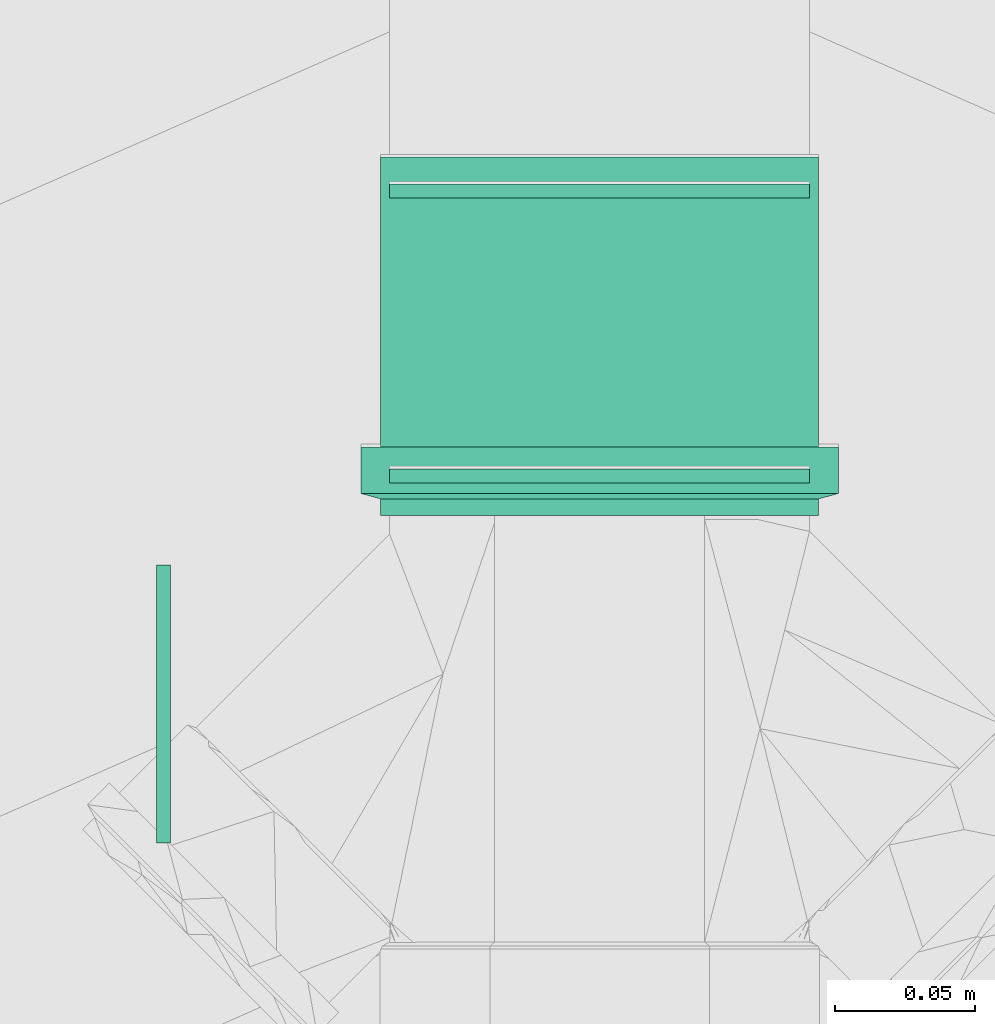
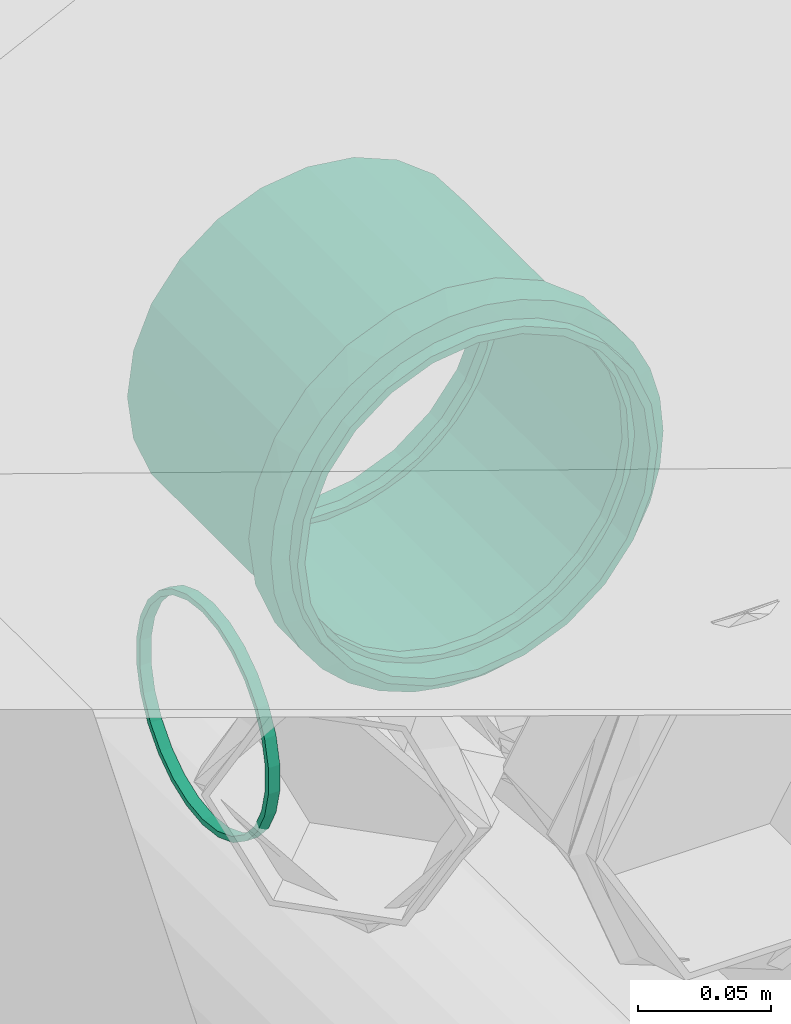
# One storey, part 115 of 166: 4 flow fittings.
"""IFC2X3 building model written with IfcOpenShell, lengths in metres."""

from ifc_helpers import new_model, entity, si_unit, converted_unit, direction, frame, frame_2d, origin, place, context, subcontext, project, spatial, hollow_circle, extrude, faceted_brep, source, transform, mapped, material, type_object, type_shapes, element, save


model = new_model("IFC2X3")

# Units and contexts
model_context = context("Model", 3, precision=1e-05, world=origin(), true_north=direction((6.123233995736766e-17, 1.0)))
body_context = subcontext(model_context, "Body", "Model", "MODEL_VIEW")
ifc_project = project(units=[si_unit("LENGTHUNIT", "METRE"), converted_unit("PLANEANGLEUNIT", "DEGREE", entity("IfcPlaneAngleMeasure", 0.017453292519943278), si_unit("PLANEANGLEUNIT", "RADIAN"), dimensions=[0, 0, 0, 0, 0, 0, 0]), si_unit("AREAUNIT", "SQUARE_METRE")], contexts=[model_context])

# Site, building, storey
site_placement = place(None, origin())
site = spatial("IfcSite", under=ifc_project, at=site_placement, Name="Default", CompositionType="ELEMENT")
building_placement = place(site_placement, origin())
building = spatial("IfcBuilding", under=site, at=building_placement, Name="CASA DE ACOLHIDA PARA IDOSOS", CompositionType="ELEMENT")
storey_placement = place(building_placement, frame((0.0, 0.0, -1.7499999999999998)))
storey = spatial("IfcBuildingStorey", under=building, at=storey_placement, Name="IMPLANTAÇÃO DRENAGEM", CompositionType="ELEMENT", Elevation=-1.7499999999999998)

# Flow fittings
ifc_material_1 = material(Name="PVC Bege Pérola")
pipe_fitting_type_1 = type_object("IfcPipeFittingType", Name="PLUV_Serie Reforcada_Luva Simples:Standard", PredefinedType="NOTDEFINED", material=ifc_material_1)
shared_shape_1 = source(origin(), body_context, "Body", "Brep", [
    faceted_brep([(0.02451000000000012, -0.039124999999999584, -0.06776648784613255), (0.02451000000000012, -0.06028085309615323, -0.06028085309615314), (0.02451000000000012, -0.04262500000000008, -0.07382866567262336), (0.02451000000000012, -0.020252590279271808, -0.0755836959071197), (0.02451000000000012, -0.05533110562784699, -0.055331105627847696), (0.02451000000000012, -0.07382866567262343, -0.04262499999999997), (0.02451000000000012, -0.06776648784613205, -0.03912500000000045), (0.02451000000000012, -0.07558369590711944, -0.02025259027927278), (0.02451000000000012, -0.08234517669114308, -0.022064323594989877), (0.02451000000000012, -0.07825, 0.0), (0.02451000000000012, -0.08525, 0.0), (0.02451000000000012, -0.07558369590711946, 0.020252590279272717), (0.02451000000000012, -0.0823451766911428, 0.022064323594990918), (0.02451000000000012, -0.06776648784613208, 0.039125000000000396), (0.02451000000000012, -0.07382866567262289, 0.04262500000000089), (0.02451000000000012, -0.05533110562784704, 0.055331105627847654), (0.02451000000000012, -0.06028085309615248, 0.0602808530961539), (0.02451000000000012, -0.03912499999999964, 0.06776648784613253), (0.02451000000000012, -0.04262499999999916, 0.07382866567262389), (0.02451000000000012, -0.020252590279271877, 0.07558369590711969), (0.02451000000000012, -0.02206432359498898, 0.08234517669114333), (0.02451000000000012, 0.0, 0.07825), (0.02451000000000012, 0.0, 0.08525), (0.02451000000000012, 0.020252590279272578, 0.0755836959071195), (0.02451000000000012, 0.022064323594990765, 0.08234517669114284), (0.02451000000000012, 0.03912500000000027, 0.06776648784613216), (0.02451000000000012, 0.042625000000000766, 0.07382866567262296), (0.02451000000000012, 0.05533110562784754, 0.055331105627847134), (0.02451000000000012, 0.0602808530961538, 0.06028085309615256), (0.02451000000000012, 0.06776648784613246, 0.03912499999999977), (0.02451000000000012, 0.07382866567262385, 0.042624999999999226), (0.02451000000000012, 0.08234517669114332, 0.02206432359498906), (0.02451000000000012, 0.07558369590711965, 0.020252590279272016), (0.02451000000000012, 0.08525, 0.0), (0.02451000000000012, 0.07825, 0.0), (0.02451000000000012, 0.08234517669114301, -0.022064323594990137), (0.02451000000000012, 0.07558369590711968, -0.020252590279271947), (0.02451000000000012, 0.07382866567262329, -0.04262500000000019), (0.02451000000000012, 0.0677664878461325, -0.03912499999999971), (0.02451000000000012, 0.060280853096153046, -0.060280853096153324), (0.02451000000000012, 0.05533110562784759, -0.055331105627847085), (0.02451000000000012, 0.042624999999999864, -0.0738286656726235), (0.02451000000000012, 0.039125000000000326, -0.06776648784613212), (0.02451000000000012, 0.02206432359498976, -0.08234517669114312), (0.02451000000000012, 0.02025259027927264, -0.07558369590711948), (0.02451000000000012, 0.0, -0.08525), (0.02451000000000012, 0.0, -0.07825), (0.02451000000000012, -0.022064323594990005, -0.08234517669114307), (0.007830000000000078, 0.08379835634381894, 0.01566518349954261), (0.007830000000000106, 0.07949286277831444, 0.03079687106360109), (0.007830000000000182, 0.05137242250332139, 0.06803261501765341), (0.007830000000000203, 0.03799626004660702, 0.07631413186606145), (0.007830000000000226, 0.00786152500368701, 0.08488674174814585), (0.00783000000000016, 0.06299903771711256, 0.057434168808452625), (0.007830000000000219, 0.023326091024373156, 0.08199668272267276), (0.007830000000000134, 0.07248014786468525, 0.044879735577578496), (0.00783000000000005, 0.08525, 0.0), (0.00783000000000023, -0.007870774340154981, 0.08488588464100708), (0.007830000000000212, -0.03800457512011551, 0.07630999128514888), (0.007830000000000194, -0.05137983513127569, 0.06802701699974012), (0.007830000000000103, -0.07949621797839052, 0.030788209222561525), (0.007830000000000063, -0.08380006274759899, 0.015656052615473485), (0.007830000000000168, -0.06300529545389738, 0.05742730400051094), (0.00783000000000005, -0.08525, 0.0), (0.007830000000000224, -0.023335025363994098, 0.08199414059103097), (0.007830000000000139, -0.07248503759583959, 0.04487183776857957), (0.007830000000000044, -0.08380006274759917, -0.015656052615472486), (0.007830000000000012, -0.07949621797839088, -0.03078820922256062), (0.00782999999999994, -0.05137983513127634, -0.06802701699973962), (0.007829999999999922, -0.038004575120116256, -0.07630999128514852), (0.007829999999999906, -0.007870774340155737, -0.084885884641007), (0.00782999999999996, -0.063005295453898, -0.05742730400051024), (0.007829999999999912, -0.023335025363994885, -0.08199414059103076), (0.007829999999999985, -0.07248503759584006, -0.04487183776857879), (0.007829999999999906, 0.007861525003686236, -0.0848867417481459), (0.007829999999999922, 0.037996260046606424, -0.07631413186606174), (0.007829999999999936, 0.05137242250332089, -0.06803261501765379), (0.00783, 0.07949286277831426, -0.030796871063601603), (0.007830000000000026, 0.08379835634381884, -0.015665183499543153), (0.007829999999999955, 0.06299903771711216, -0.057434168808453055), (0.007829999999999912, 0.023326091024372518, -0.08199668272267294), (0.007829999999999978, 0.07248014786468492, -0.044879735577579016), (0.1280100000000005, -0.0374999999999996, -0.06495190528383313), (0.1280100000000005, -0.055331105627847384, -0.05533110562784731), (0.1280100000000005, -0.03912500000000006, -0.06776648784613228), (0.1280100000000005, -0.01941142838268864, -0.07244443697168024), (0.1280100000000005, -0.05303300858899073, -0.053033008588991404), (0.1280100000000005, -0.06776648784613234, -0.039124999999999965), (0.1280100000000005, -0.06495190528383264, -0.03750000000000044), (0.1280100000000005, -0.07244443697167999, -0.01941142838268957), (0.1280100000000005, -0.07558369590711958, -0.020252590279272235), (0.1280100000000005, -0.07500000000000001, 0.0), (0.1280100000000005, -0.07825, 0.0), (0.1280100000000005, -0.07244443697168, 0.019411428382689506), (0.1280100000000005, -0.07558369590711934, 0.020252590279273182), (0.1280100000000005, -0.06495190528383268, 0.03750000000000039), (0.1280100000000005, -0.06776648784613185, 0.03912500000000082), (0.1280100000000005, -0.05303300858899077, 0.05303300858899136), (0.1280100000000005, -0.0553311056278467, 0.055331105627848), (0.1280100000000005, -0.03749999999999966, 0.0649519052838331), (0.1280100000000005, -0.039124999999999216, 0.06776648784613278), (0.1280100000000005, -0.0194114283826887, 0.07244443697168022), (0.1280100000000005, -0.020252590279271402, 0.07558369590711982), (0.1280100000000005, 0.0, 0.07500000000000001), (0.1280100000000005, 0.0, 0.07825), (0.1280100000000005, 0.019411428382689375, 0.07244443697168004), (0.1280100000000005, 0.020252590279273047, 0.07558369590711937), (0.1280100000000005, 0.03750000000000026, 0.06495190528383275), (0.1280100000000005, 0.039125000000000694, 0.06776648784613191), (0.1280100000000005, 0.05303300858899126, 0.05303300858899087), (0.1280100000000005, 0.055331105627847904, 0.05533110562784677), (0.1280100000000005, 0.06495190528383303, 0.037499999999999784), (0.1280100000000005, 0.06776648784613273, 0.039124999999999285), (0.1280100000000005, 0.0755836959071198, 0.02025259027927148), (0.1280100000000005, 0.07244443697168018, 0.019411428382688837), (0.1280100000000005, 0.07825, 0.0), (0.1280100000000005, 0.07500000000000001, 0.0), (0.1280100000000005, 0.07558369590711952, -0.020252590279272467), (0.1280100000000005, 0.0724444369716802, -0.01941142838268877), (0.1280100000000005, 0.06776648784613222, -0.039125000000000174), (0.1280100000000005, 0.06495190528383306, -0.03749999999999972), (0.1280100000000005, 0.05533110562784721, -0.05533110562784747), (0.1280100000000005, 0.053033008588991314, -0.05303300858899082), (0.1280100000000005, 0.03912499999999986, -0.0677664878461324), (0.1280100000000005, 0.03750000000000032, -0.06495190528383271), (0.1280100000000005, 0.02025259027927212, -0.07558369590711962), (0.1280100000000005, 0.019411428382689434, -0.07244443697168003), (0.1280100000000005, 0.0, -0.07825), (0.1280100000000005, 0.0, -0.07500000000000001), (0.1280100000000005, -0.020252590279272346, -0.07558369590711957), (0.0, -0.03912500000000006, -0.06776648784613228), (0.0, -0.055331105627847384, -0.05533110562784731), (0.0, -0.0374999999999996, -0.06495190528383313), (0.0, -0.01941142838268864, -0.07244443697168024), (0.0, -0.020252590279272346, -0.07558369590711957), (0.0, -0.05303300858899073, -0.053033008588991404), (0.0, -0.06776648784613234, -0.039124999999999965), (0.0, -0.06495190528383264, -0.03750000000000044), (0.0, -0.07244443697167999, -0.01941142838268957), (0.0, -0.07558369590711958, -0.020252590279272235), (0.0, -0.07500000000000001, 0.0), (0.0, -0.07825, 0.0), (0.0, -0.07244443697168, 0.019411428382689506), (0.0, -0.07558369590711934, 0.020252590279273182), (0.0, -0.06495190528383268, 0.03750000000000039), (0.0, -0.06776648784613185, 0.03912500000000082), (0.0, -0.05303300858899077, 0.05303300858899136), (0.0, -0.0553311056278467, 0.055331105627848), (0.0, -0.03749999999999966, 0.0649519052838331), (0.0, -0.039124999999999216, 0.06776648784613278), (0.0, -0.0194114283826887, 0.07244443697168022), (0.0, -0.020252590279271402, 0.07558369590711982), (0.0, 0.0, 0.07500000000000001), (0.0, 0.0, 0.07825), (0.0, 0.019411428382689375, 0.07244443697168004), (0.0, 0.020252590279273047, 0.07558369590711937), (0.0, 0.03750000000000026, 0.06495190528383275), (0.0, 0.039125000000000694, 0.06776648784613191), (0.0, 0.05303300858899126, 0.05303300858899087), (0.0, 0.055331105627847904, 0.05533110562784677), (0.0, 0.06495190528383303, 0.037499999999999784), (0.0, 0.06776648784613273, 0.039124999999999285), (0.0, 0.0755836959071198, 0.02025259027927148), (0.0, 0.07244443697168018, 0.019411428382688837), (0.0, 0.07825, 0.0), (0.0, 0.07500000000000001, 0.0), (0.0, 0.07558369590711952, -0.020252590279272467), (0.0, 0.0724444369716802, -0.01941142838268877), (0.0, 0.06776648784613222, -0.039125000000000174), (0.0, 0.06495190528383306, -0.03749999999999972), (0.0, 0.05533110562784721, -0.05533110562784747), (0.0, 0.053033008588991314, -0.05303300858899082), (0.0, 0.03912499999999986, -0.0677664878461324), (0.0, 0.03750000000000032, -0.06495190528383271), (0.0, 0.02025259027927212, -0.07558369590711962), (0.0, 0.019411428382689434, -0.07244443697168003), (0.0, 0.0, -0.07825), (0.0, 0.0, -0.07500000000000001), (0.0059500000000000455, 0.07825, 0.0), (0.005950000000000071, 0.07674636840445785, 0.015266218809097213), (0.005950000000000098, 0.0722932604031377, 0.02994573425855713), (0.005950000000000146, 0.05532994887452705, 0.05533226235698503), (0.005950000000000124, 0.06506181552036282, 0.043474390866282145), (0.005950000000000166, 0.04347167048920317, 0.06506363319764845), (0.005950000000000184, 0.029942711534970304, 0.07229451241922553), (0.005950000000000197, 0.015263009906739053, 0.07674700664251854), (0.005950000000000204, -3.271758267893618e-06, 0.07824999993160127), (0.005950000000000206, -0.015269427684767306, 0.07674573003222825), (0.005950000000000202, -0.029948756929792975, 0.07229200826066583), (0.005950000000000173, -0.055334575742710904, 0.05532763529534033), (0.00595000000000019, -0.04347711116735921, 0.0650599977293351), (0.0059500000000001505, -0.06506545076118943, 0.043468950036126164), (0.005950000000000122, -0.07229576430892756, 0.02993968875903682), (0.0059500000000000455, -0.07825, 0.0), (0.005950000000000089, -0.07674764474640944, 0.015259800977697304), (0.0059499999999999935, -0.07674764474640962, -0.015259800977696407), (0.005949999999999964, -0.0722957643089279, -0.02993968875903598), (0.005949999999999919, -0.05533457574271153, -0.05532763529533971), (0.005949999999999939, -0.06506545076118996, -0.04346895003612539), (0.005949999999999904, -0.04347711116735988, -0.06505999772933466), (0.005949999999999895, -0.029948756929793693, -0.07229200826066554), (0.00594999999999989, -0.015269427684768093, -0.0767457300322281), (0.005949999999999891, -3.2717582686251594e-06, -0.07824999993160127), (0.005949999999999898, 0.015263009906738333, -0.07674700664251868), (0.00594999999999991, 0.029942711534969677, -0.0722945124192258), (0.005949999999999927, 0.04347167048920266, -0.0650636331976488), (0.00594999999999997, 0.06506181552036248, -0.043474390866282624), (0.005949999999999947, 0.055329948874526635, -0.055332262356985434), (0.005949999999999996, 0.0722932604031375, -0.02994573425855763), (0.00595000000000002, 0.07674636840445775, -0.015266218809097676), (0.06700000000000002, 0.07500000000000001, 0.0), (0.067, -0.07500000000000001, 0.0)], [[[0, 1, 2]], [[3, 0, 2]], [[4, 1, 0]], [[1, 4, 5]], [[6, 5, 4]], [[7, 5, 6]], [[5, 7, 8]], [[7, 9, 8]], [[10, 8, 9]], [[10, 9, 11]], [[11, 12, 10]], [[13, 12, 11]], [[12, 13, 14]], [[15, 14, 13]], [[16, 14, 15]], [[16, 15, 17]], [[17, 18, 16]], [[19, 18, 17]], [[18, 19, 20]], [[21, 20, 19]], [[22, 20, 21]], [[23, 22, 21]], [[24, 22, 23]], [[25, 24, 23]], [[24, 25, 26]], [[25, 27, 26]], [[28, 26, 27]], [[27, 29, 28]], [[28, 29, 30]], [[31, 30, 29]], [[29, 32, 31]], [[31, 32, 33]], [[32, 34, 33]], [[33, 34, 35]], [[34, 36, 35]], [[37, 35, 36]], [[36, 38, 37]], [[39, 37, 38]], [[40, 39, 38]], [[40, 41, 39]], [[42, 41, 40]], [[43, 41, 42]], [[42, 44, 43]], [[43, 44, 45]], [[44, 46, 45]], [[46, 3, 47]], [[45, 46, 47]], [[2, 47, 3]], [[33, 48, 31]], [[31, 49, 30]], [[26, 28, 50]], [[51, 24, 26]], [[22, 24, 52]], [[53, 28, 30]], [[24, 54, 52]], [[30, 49, 55]], [[31, 48, 49]], [[33, 56, 48]], [[26, 50, 51]], [[50, 28, 53]], [[30, 55, 53]], [[54, 24, 51]], [[22, 57, 20]], [[18, 20, 58]], [[59, 16, 18]], [[12, 14, 60]], [[61, 10, 12]], [[62, 14, 16]], [[61, 63, 10]], [[18, 58, 59]], [[20, 64, 58]], [[20, 57, 64]], [[14, 65, 60]], [[65, 14, 62]], [[16, 59, 62]], [[61, 12, 60]], [[52, 57, 22]], [[10, 66, 8]], [[8, 67, 5]], [[2, 1, 68]], [[69, 47, 2]], [[45, 47, 70]], [[71, 1, 5]], [[47, 72, 70]], [[5, 67, 73]], [[8, 66, 67]], [[10, 63, 66]], [[2, 68, 69]], [[68, 1, 71]], [[5, 73, 71]], [[72, 47, 69]], [[45, 74, 43]], [[41, 43, 75]], [[76, 39, 41]], [[77, 35, 37]], [[33, 35, 78]], [[78, 56, 33]], [[79, 37, 39]], [[35, 77, 78]], [[41, 75, 76]], [[43, 80, 75]], [[43, 74, 80]], [[81, 37, 79]], [[39, 76, 79]], [[37, 81, 77]], [[70, 74, 45]], [[82, 83, 84]], [[85, 82, 84]], [[86, 83, 82]], [[83, 86, 87]], [[88, 87, 86]], [[89, 87, 88]], [[87, 89, 90]], [[89, 91, 90]], [[92, 90, 91]], [[92, 91, 93]], [[93, 94, 92]], [[95, 94, 93]], [[94, 95, 96]], [[97, 96, 95]], [[98, 96, 97]], [[98, 97, 99]], [[99, 100, 98]], [[101, 100, 99]], [[100, 101, 102]], [[103, 102, 101]], [[104, 102, 103]], [[105, 104, 103]], [[106, 104, 105]], [[107, 106, 105]], [[106, 107, 108]], [[108, 107, 109]], [[110, 108, 109]], [[109, 111, 110]], [[110, 111, 112]], [[113, 112, 111]], [[111, 114, 113]], [[113, 114, 115]], [[114, 116, 115]], [[115, 116, 117]], [[116, 118, 117]], [[119, 117, 118]], [[118, 120, 119]], [[121, 119, 120]], [[122, 121, 120]], [[122, 123, 121]], [[123, 122, 124]], [[125, 123, 124]], [[124, 126, 125]], [[125, 126, 127]], [[126, 128, 127]], [[128, 85, 129]], [[127, 128, 129]], [[84, 129, 85]], [[130, 131, 132]], [[130, 132, 133]], [[133, 134, 130]], [[132, 131, 135]], [[136, 135, 131]], [[135, 136, 137]], [[137, 136, 138]], [[139, 138, 136]], [[139, 140, 138]], [[140, 139, 141]], [[142, 140, 141]], [[141, 143, 142]], [[142, 143, 144]], [[145, 144, 143]], [[144, 145, 146]], [[146, 145, 147]], [[148, 146, 147]], [[147, 149, 148]], [[148, 149, 150]], [[151, 150, 149]], [[150, 151, 152]], [[152, 151, 153]], [[152, 153, 154]], [[154, 153, 155]], [[154, 155, 156]], [[157, 156, 155]], [[158, 156, 157]], [[158, 157, 159]], [[159, 160, 158]], [[161, 160, 159]], [[160, 161, 162]], [[162, 163, 160]], [[164, 163, 162]], [[164, 165, 163]], [[166, 165, 164]], [[166, 167, 165]], [[167, 166, 168]], [[168, 169, 167]], [[169, 168, 170]], [[169, 170, 171]], [[170, 172, 171]], [[173, 171, 172]], [[173, 172, 174]], [[174, 175, 173]], [[176, 175, 174]], [[134, 177, 176]], [[176, 177, 175]], [[134, 133, 177]], [[178, 164, 179]], [[179, 162, 180]], [[181, 182, 159]], [[159, 183, 181]], [[161, 182, 180]], [[183, 157, 184]], [[182, 161, 159]], [[180, 162, 161]], [[179, 164, 162]], [[155, 153, 185]], [[186, 185, 153]], [[155, 184, 157]], [[183, 159, 157]], [[184, 155, 185]], [[187, 153, 151]], [[187, 151, 188]], [[189, 190, 147]], [[147, 191, 189]], [[149, 190, 188]], [[191, 145, 192]], [[191, 147, 145]], [[190, 149, 147]], [[188, 151, 149]], [[141, 193, 194]], [[194, 143, 141]], [[192, 145, 143]], [[143, 194, 192]], [[186, 153, 187]], [[193, 141, 195]], [[195, 139, 196]], [[197, 198, 131]], [[131, 199, 197]], [[136, 198, 196]], [[199, 130, 200]], [[198, 136, 131]], [[196, 139, 136]], [[195, 141, 139]], [[176, 201, 134]], [[134, 200, 130]], [[176, 202, 201]], [[199, 131, 130]], [[200, 134, 201]], [[203, 174, 204]], [[204, 172, 205]], [[206, 207, 170]], [[208, 206, 168]], [[170, 207, 205]], [[209, 208, 166]], [[205, 172, 170]], [[204, 174, 172]], [[203, 176, 174]], [[209, 166, 164]], [[166, 208, 168]], [[206, 170, 168]], [[178, 209, 164]], [[202, 176, 203]], [[206, 208, 81]], [[78, 209, 178]], [[77, 208, 209]], [[75, 204, 205]], [[205, 207, 76]], [[206, 79, 207]], [[204, 80, 203]], [[77, 209, 78]], [[78, 178, 56]], [[81, 208, 77]], [[203, 80, 74]], [[207, 79, 76]], [[205, 76, 75]], [[204, 75, 80]], [[79, 206, 81]], [[74, 202, 203]], [[200, 201, 72]], [[202, 70, 201]], [[200, 69, 199]], [[67, 195, 196]], [[196, 198, 73]], [[71, 198, 197]], [[199, 68, 197]], [[193, 195, 66]], [[199, 69, 68]], [[201, 70, 72]], [[200, 72, 69]], [[193, 66, 63]], [[198, 71, 73]], [[196, 73, 67]], [[195, 67, 66]], [[71, 197, 68]], [[74, 70, 202]], [[191, 192, 65]], [[61, 194, 193]], [[60, 192, 194]], [[58, 188, 190]], [[190, 189, 59]], [[191, 62, 189]], [[188, 64, 187]], [[60, 194, 61]], [[61, 193, 63]], [[65, 192, 60]], [[187, 64, 57]], [[189, 62, 59]], [[190, 59, 58]], [[188, 58, 64]], [[62, 191, 65]], [[57, 186, 187]], [[184, 185, 54]], [[186, 52, 185]], [[184, 51, 183]], [[49, 179, 180]], [[180, 182, 55]], [[53, 182, 181]], [[183, 50, 181]], [[178, 179, 48]], [[183, 51, 50]], [[185, 52, 54]], [[184, 54, 51]], [[178, 48, 56]], [[182, 53, 55]], [[180, 55, 49]], [[179, 49, 48]], [[53, 181, 50]], [[57, 52, 186]], [[113, 115, 34, 32]], [[113, 32, 29, 112]], [[108, 110, 27, 25]], [[27, 110, 112, 29]], [[106, 108, 25, 23]], [[23, 21, 104, 106]], [[100, 102, 19, 17]], [[100, 17, 15, 98]], [[94, 96, 13, 11]], [[13, 96, 98, 15]], [[92, 94, 11, 9]], [[104, 21, 19, 102]], [[90, 92, 9, 7]], [[90, 7, 6, 87]], [[3, 129, 84, 0]], [[4, 0, 84, 83]], [[83, 87, 6, 4]], [[3, 46, 127, 129]], [[123, 125, 44, 42]], [[123, 42, 40, 121]], [[117, 119, 38, 36]], [[38, 119, 121, 40]], [[115, 117, 36, 34]], [[127, 46, 44, 125]], [[210, 116, 114, 163, 165]], [[109, 107, 156, 158]], [[158, 160, 111, 109]], [[160, 163, 114, 111]], [[154, 156, 107, 105]], [[105, 103, 152, 154]], [[150, 152, 103, 101]], [[99, 148, 150, 101]], [[95, 93, 142, 144]], [[144, 146, 97, 95]], [[146, 148, 99, 97]], [[211, 140, 142, 93, 91]], [[91, 89, 138, 140, 211]], [[86, 82, 132, 135]], [[138, 89, 88, 137]], [[86, 135, 137, 88]], [[133, 132, 82, 85]], [[85, 128, 177, 133]], [[175, 177, 128, 126]], [[124, 173, 175, 126]], [[120, 118, 167, 169]], [[169, 171, 122, 120]], [[171, 173, 124, 122]], [[210, 165, 167, 118, 116]]]),
])
type_shapes(pipe_fitting_type_1, [shared_shape_1])
flow_fitting_1_placement = place(storey_placement, frame((22.96863342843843, 3.9223420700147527, -0.5999999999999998), z_axis=(0.0, 0.0, -1.0), x_axis=(0.0, 1.0, 0.0)))
element("IfcFlowFitting", 1, at=flow_fitting_1_placement, inside=storey, type_object=pipe_fitting_type_1, material=ifc_material_1, Name="PLUV_Serie Reforcada_Luva Simples:Standard", ObjectType="PLUV_Serie Reforcada_Luva Simples:Standard", context=body_context, shape_type="MappedRepresentation", body=[
    mapped(shared_shape_1, transform((0.0, 0.0, 0.0), scale=1.0)),
])
ifc_material_2 = material(Name="Borracha")
pipe_fitting_type_2 = type_object("IfcPipeFittingType", Name="AN_PLUV_Anel de vedação para Conexão Série R:AN_PLUV_Anel de vedação para Conexão Série R", PredefinedType="NOTDEFINED", material=ifc_material_2)
shared_shape_2 = source(origin(), body_context, "Body", "SweptSolid", [
    extrude(hollow_circle(Radius=0.05, WallThickness=0.0024999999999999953, at=frame_2d((2.979563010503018e-18, -2.251062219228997e-16), x_axis=(1.0, 0.0))), frame((0.0, 0.0, -0.004999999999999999)), (0.0, 0.0, 1.0), 0.004999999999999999),
])
type_shapes(pipe_fitting_type_2, [shared_shape_2])
flow_fitting_2_placement = place(storey_placement, frame((22.815287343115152, 3.8550259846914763, -0.5999999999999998), z_axis=(1.0, 0.0, 0.0), x_axis=(0.0, 0.0, 1.0)))
element("IfcFlowFitting", 2, at=flow_fitting_2_placement, inside=storey, type_object=pipe_fitting_type_2, material=ifc_material_2, Name="AN_PLUV_Anel de vedação para Conexão Série R:AN_PLUV_Anel de vedação para Conexão Série R", ObjectType="AN_PLUV_Anel de vedação para Conexão Série R:AN_PLUV_Anel de vedação para Conexão Série R", context=body_context, shape_type="MappedRepresentation", body=[
    mapped(shared_shape_2, transform((0.0, 0.0, 0.0), scale=1.0)),
])
pipe_fitting_type_3 = type_object("IfcPipeFittingType", Name="AN_PLUV_Anel de vedação para Conexão Série R:AN_PLUV_Anel de vedação para Conexão Série R", PredefinedType="NOTDEFINED", material=ifc_material_2)
shared_shape_3 = source(origin(), body_context, "Body", "SweptSolid", [
    extrude(hollow_circle(Radius=0.07500000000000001, WallThickness=0.0025000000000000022, at=frame_2d((2.979563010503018e-18, -3.3765933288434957e-16), x_axis=(1.0, 0.0))), frame((0.0, 0.0, -0.004999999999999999)), (0.0, 0.0, 1.0), 0.004999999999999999),
])
type_shapes(pipe_fitting_type_3, [shared_shape_3])
for number, where, z_axis, x_axis in (
    (3, (22.96863342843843, 4.035692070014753, -0.5999999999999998), (0.0, -1.0, 0.0), (0.0, 0.0, 1.0)),
    (4, (22.96863342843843, 3.9389420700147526, -0.5999999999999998), (0.0, 1.0, 0.0), (0.0, 0.0, 1.0)),
):
    element("IfcFlowFitting", number, at=place(storey_placement, frame(where, z_axis=z_axis, x_axis=x_axis)), inside=storey, type_object=pipe_fitting_type_3, material=ifc_material_2, Name="AN_PLUV_Anel de vedação para Conexão Série R:AN_PLUV_Anel de vedação para Conexão Série R", ObjectType="AN_PLUV_Anel de vedação para Conexão Série R:AN_PLUV_Anel de vedação para Conexão Série R", context=body_context, shape_type="MappedRepresentation", body=[
        mapped(shared_shape_3, transform((0.0, 0.0, 0.0), scale=1.0)),
    ])

save(model, "model.ifc")
